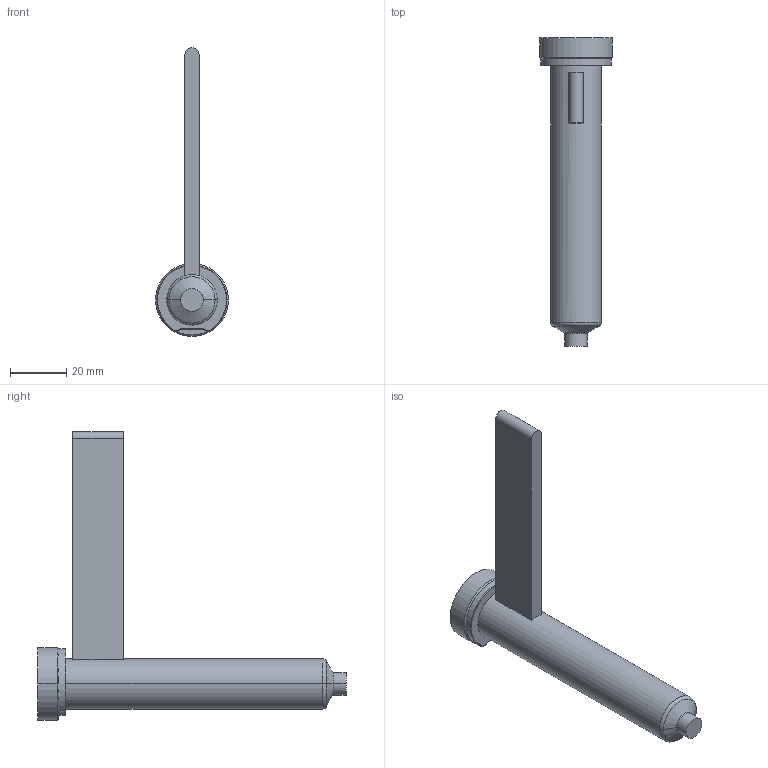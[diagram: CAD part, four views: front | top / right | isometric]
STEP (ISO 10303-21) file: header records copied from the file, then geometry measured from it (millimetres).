
FILE_DESCRIPTION((''),'2;1');
FILE_NAME('EO04_SG_SG_100_COT','2024-02-19T12:12:00',('sundharh'),(''),'CREO PARAMETRIC BY PTC INC, 2023154','CREO PARAMETRIC BY PTC INC, 2023154','');
FILE_SCHEMA(('CONFIG_CONTROL_DESIGN'));
Length unit declared in the file: millimetre
Products named in the file (1): EO04_SG_SG_100_COT
Bounding box: 26 x 110 x 103 mm (x, y, z)
Volume: 36560.8 mm3; surface area: 10900.7 mm2
Topology: 1 solids, 1 shells, 31 faces, 67 edges, 40 vertices
Faces by surface type: cylinder 11, plane 9, torus 7, cone 4
Entity records: 961 total; most frequent: CARTESIAN_POINT 228, DIRECTION 159, ORIENTED_EDGE 134, AXIS2_PLACEMENT_3D 67, EDGE_CURVE 67, VERTEX_POINT 40, CIRCLE 36, EDGE_LOOP 33
